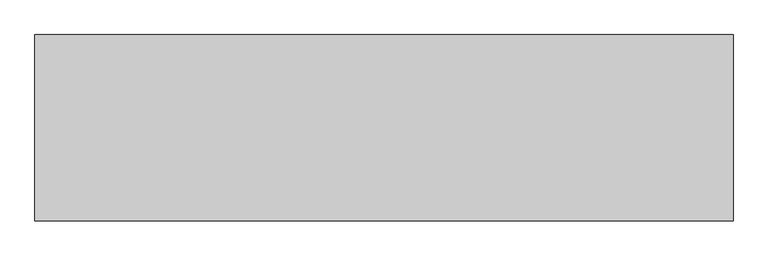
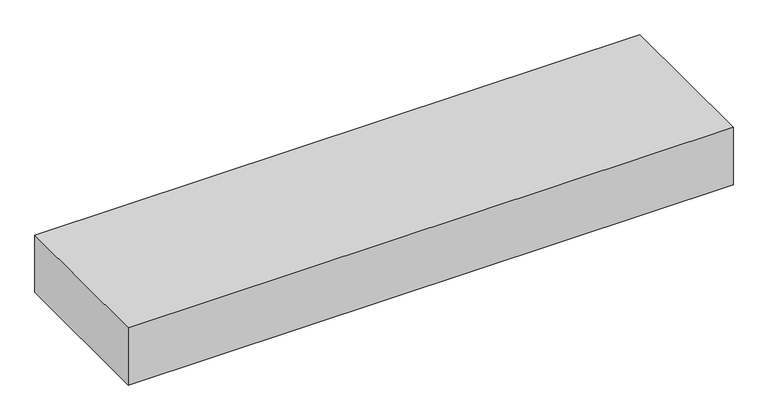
"""IFC4 building model written with IfcOpenShell, lengths in millimetres: proxy geometry, 機械基礎(電気) : 機械基礎(電気)."""

from ifc_helpers import new_model, si_unit, origin, origin_with_axes, place, context, project, spatial, polyline, outline, extrude, source, transform, mapped, element, save


def specialty_equipment_5abf0861(model_context):
    return source(origin(), model_context, "Body", "SweptSolid", [
        extrude(outline(polyline([(750.0, -200.0), (-750.0, -200.0), (-750.0, 200.0), (750.0, 200.0), (750.0, -200.0)])), origin_with_axes(), (0.0, 0.0, 1.0), 150.0),
    ])


if __name__ == "__main__":
    model = new_model("IFC4")
    model_context = context("Model", 3, world=origin())
    ifc_project = project(units=[si_unit("LENGTHUNIT", "METRE", prefix="MILLI")], contexts=[model_context])
    site = spatial("IfcSite", under=ifc_project)
    building = spatial("IfcBuilding", under=site)
    placement = place(None, origin())
    specialty_equipment_shape = specialty_equipment_5abf0861(model_context)
    element("IfcBuildingElementProxy", 1, Name="機械基礎(電気) : 機械基礎(電気)", ObjectType="機械基礎(電気) : 機械基礎(電気)", at=placement, inside=building, context=model_context, shape_type="MappedRepresentation", body=[
        mapped(specialty_equipment_shape, transform((0.0, 0.0, 0.0), x_axis=(1.0, 0.0, 0.0), y_axis=(0.0, 1.0, 0.0), z_axis=(0.0, 0.0, 1.0))),
    ])
    save(model, "model.ifc")
